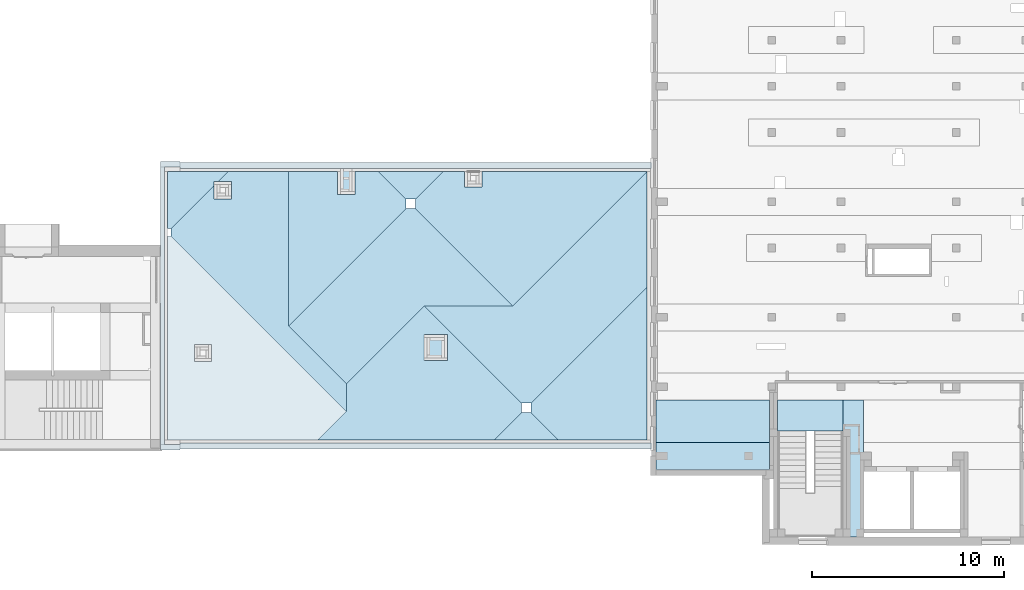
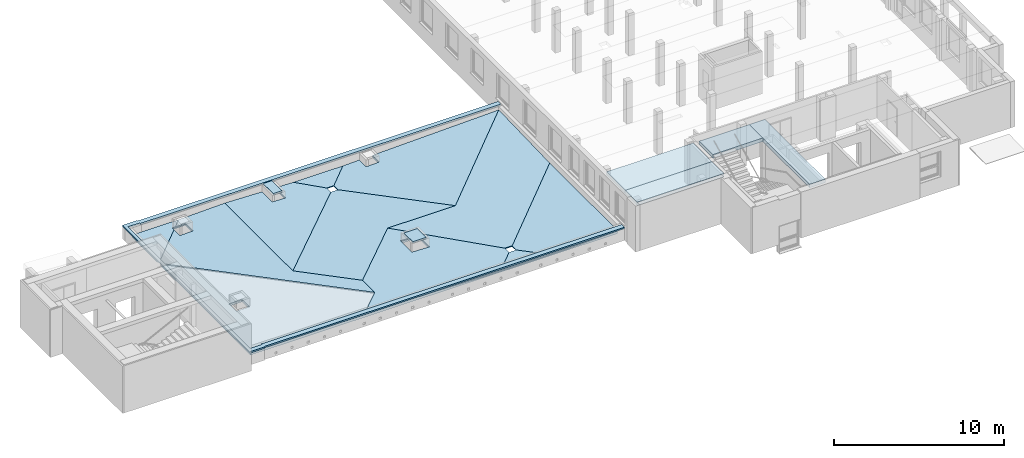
# One storey, part 2 of 27: 18 slabs, 1 element without a shape of its own.
"""IFC4 building model written with IfcOpenShell, lengths in metres."""

from ifc_helpers import new_model, entity, si_unit, converted_unit, derived_unit, frame, frame_2d, origin, origin_with_axes, place, context, subcontext, project, spatial, polyline, rectangle, outline, extrude, clip, bounded_halfspace, material, layer, layer_set, layer_usage, element, aggregate, save


model = new_model("IFC4")

# Units and contexts
model_context = context("Model", 3, precision=1e-05, world=origin())
body_context = subcontext(model_context, "Body", "Model", "MODEL_VIEW")
ifc_project = project(units=[si_unit("LENGTHUNIT", "METRE"), si_unit("AREAUNIT", "SQUARE_METRE"), si_unit("VOLUMEUNIT", "CUBIC_METRE"), si_unit("MASSUNIT", "GRAM", prefix="KILO"), converted_unit("PLANEANGLEUNIT", "DEGREE", entity("IfcPlaneAngleMeasure", 0.0174532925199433), si_unit("PLANEANGLEUNIT", "RADIAN"), dimensions=[0, 0, 0, 0, 0, 0, 0]), derived_unit("THERMALTRANSMITTANCEUNIT", [(si_unit("POWERUNIT", "WATT"), 1), (si_unit("THERMODYNAMICTEMPERATUREUNIT", "KELVIN"), -1), (si_unit("LENGTHUNIT", "METRE"), -2)]), derived_unit("VOLUMETRICFLOWRATEUNIT", [(si_unit("LENGTHUNIT", "METRE"), 3), (converted_unit("TIMEUNIT", "hour", entity("IfcTimeMeasure", 3600.0), si_unit("TIMEUNIT", "SECOND"), dimensions=[0, 0, 1, 0, 0, 0, 0]), -1), (si_unit("LENGTHUNIT", "METRE"), -1)])], contexts=[model_context])

# Site, building, storey
site_placement = place(None, origin())
site = spatial("IfcSite", under=ifc_project, at=site_placement, Name="3. ASŘ", CompositionType="ELEMENT")
building_placement = place(site_placement, origin())
building = spatial("IfcBuilding", under=site, at=building_placement, Name="Pavilon C", CompositionType="ELEMENT")
storey_placement = place(building_placement, frame((0.0, 0.0, 7.2)))
storey = spatial("IfcBuildingStorey", under=building, at=storey_placement, Name="Půdorys 3.NP", CompositionType="ELEMENT", Elevation=7.2)

# Slabs
ifc_material_1 = material(Name="VĚNEC")
slab_1_placement = place(storey_placement, frame((34.45, -4.19999999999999, 2.95)))
element("IfcSlab", 1, at=slab_1_placement, inside=storey, material=ifc_material_1, PredefinedType="FLOOR", context=body_context, shape_type="SweptSolid", body=[
    extrude(rectangle(XDim=7.09999999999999, YDim=1.07, at=frame_2d((-0.535, 3.55), x_axis=(0.0, 1.0))), frame((1.07, 0.0, 0.0), z_axis=(0.0, 0.0, 1.0), x_axis=(1.0, 0.0, 0.0)), (0.0, 0.0, 1.0), 0.25),
])
ifc_material_2 = material(Name="DZH")
slab_2_placement = place(storey_placement, frame((31.05, 1.3001, 2.95)))
element("IfcSlab", 2, at=slab_2_placement, inside=storey, material=ifc_material_2, PredefinedType="FLOOR", context=body_context, shape_type="SweptSolid", body=[
    extrude(rectangle(XDim=1.5999, YDim=3.39999999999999, at=frame_2d((-1.69999999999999, 0.799949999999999), x_axis=(0.0, 1.0))), frame((3.39999999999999, 0.0, 0.0), z_axis=(0.0, 0.0, 1.0), x_axis=(1.0, 0.0, 0.0)), (0.0, 0.0, 1.0), 0.25),
])
ifc_material_3 = material(Name="PZD")
slab_3_placement = place(storey_placement, frame((24.75, 0.699999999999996, 2.95)))
element("IfcSlab", 3, at=slab_3_placement, inside=storey, material=ifc_material_3, PredefinedType="FLOOR", context=body_context, shape_type="SweptSolid", body=[
    extrude(rectangle(XDim=2.2, YDim=5.9, at=frame_2d((2.95, -1.1), x_axis=(0.0, -1.0))), frame((0.0, 2.2, 0.0), z_axis=(0.0, 0.0, 1.0), x_axis=(1.0, 0.0, 0.0)), (0.0, 0.0, 1.0), 0.25),
])
ifc_material_4 = material(Name="RZT")
slab_4_placement = place(storey_placement, frame((24.75, -0.700000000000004, 2.95)))
element("IfcSlab", 4, at=slab_4_placement, inside=storey, material=ifc_material_4, PredefinedType="FLOOR", context=body_context, shape_type="SweptSolid", body=[
    extrude(rectangle(XDim=1.4, YDim=5.9, at=frame_2d((-2.95, 0.700000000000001), x_axis=(0.0, 1.0))), frame((5.9, 0.0, 0.0), z_axis=(0.0, 0.0, 1.0), x_axis=(1.0, 0.0, 0.0)), (0.0, 0.0, 1.0), 0.25),
])

# Roof, slabs
roof_placement = place(storey_placement, frame((0.0, 0.0, -7.2)))
roof = element("IfcRoof", 5, at=roof_placement, inside=storey, PredefinedType="NOTDEFINED")
ifc_material_5 = material(Name="ASFALTOVÁ HYDROIZOLACE")
ifc_layer_1 = layer(ifc_material_5, 0.01)
ifc_material_6 = material(Name="KAČÍREK")
ifc_layer_2 = layer(ifc_material_6, 0.06)
ifc_layer_set_1 = layer_set([ifc_layer_1, ifc_layer_2])
ifc_layer_usage_1 = layer_usage(ifc_layer_set_1, "AXIS3", "POSITIVE", 0.0)
slab_5_placement = place(roof_placement, frame((-0.649999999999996, 11.815, 7.38)))
slab_5 = element("IfcSlab", 6, at=slab_5_placement, material=ifc_layer_usage_1, PredefinedType="ROOF", context=body_context, shape_type="SweptSolid", body=[
    extrude(outline(polyline([(1.55071428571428, -1.10335331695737), (1.55071428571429, 1.8629806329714), (1.35071428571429, 1.86298063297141), (-0.874285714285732, -0.363020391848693), (-0.874285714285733, -0.578117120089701), (-1.08928571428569, -0.578117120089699), (-1.61428571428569, -1.10335331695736), (1.55071428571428, -1.10335331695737)])), frame((1.55071428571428, 1.86214285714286, 0.0558642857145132), z_axis=(1.33532470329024e-16, -0.0299865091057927, 0.999550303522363), x_axis=(-1.0, -4.45308488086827e-15, 0.0)), (0.0, -0.0299865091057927, 0.999550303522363), 0.0700314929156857),
])
ifc_material_7 = material(Name="ASFALTOVÁ HYDROIZOLACE")
ifc_layer_3 = layer(ifc_material_7, 0.01)
ifc_material_8 = material(Name="KAČÍREK")
ifc_layer_4 = layer(ifc_material_8, 0.06)
ifc_layer_set_2 = layer_set([ifc_layer_3, ifc_layer_4])
ifc_layer_usage_2 = layer_usage(ifc_layer_set_2, "AXIS3", "POSITIVE", 0.0)
slab_6_placement = place(roof_placement, frame((-0.44999999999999, 2.31500000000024, 7.38)))
slab_6 = element("IfcSlab", 7, at=slab_6_placement, material=ifc_layer_usage_2, PredefinedType="ROOF", context=body_context, shape_type="SweptSolid", body=[
    extrude(outline(polyline([(2.80124999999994, 1.65115918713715), (0.576249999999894, 3.87716021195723), (0.176250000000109, 3.87716021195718), (-8.92374999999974, -5.22693386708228), (-7.48875000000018, -5.22693386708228), (-4.48875000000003, -2.22558417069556), (3.54125000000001, -2.22558417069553), (3.54125, 0.91082626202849), (3.01625, 1.43606245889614), (3.01625, 0.750754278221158), (2.11625, 0.750754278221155), (2.11624999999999, 1.65115918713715), (2.80124999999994, 1.65115918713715)])), frame((3.87541666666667, 8.92374999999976, 0.116262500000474), z_axis=(-0.0299865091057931, 8.94097406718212e-17, 0.999550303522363), x_axis=(2.98166553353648e-15, 1.0, 0.0)), (0.0, -0.0299865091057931, 0.999550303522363), 0.0700314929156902),
])
ifc_material_9 = material(Name="ASFALTOVÁ HYDROIZOLACE")
ifc_layer_5 = layer(ifc_material_9, 0.01)
ifc_material_10 = material(Name="KAČÍREK")
ifc_layer_6 = layer(ifc_material_10, 0.06)
ifc_layer_set_3 = layer_set([ifc_layer_5, ifc_layer_6])
ifc_layer_usage_3 = layer_usage(ifc_layer_set_3, "AXIS3", "POSITIVE", 0.0)
slab_7_placement = place(roof_placement, frame((5.65000000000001, 6.75000000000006, 7.38)))
slab_7 = element("IfcSlab", 8, at=slab_7_placement, material=ifc_layer_usage_3, PredefinedType="ROOF", context=body_context, shape_type="SweptSolid", body=[
    extrude(outline(polyline([(6.49777777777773, -3.20699773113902), (0.397777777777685, 2.89574665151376), (-0.102222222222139, 2.89574665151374), (-1.53222222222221, 1.46510329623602), (-1.53222222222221, 0.239552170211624), (-0.332222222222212, 0.239552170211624), (-0.332222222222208, -0.660852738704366), (-1.53222222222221, -0.660852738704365), (-1.53222222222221, -3.20699773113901), (6.49777777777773, -3.20699773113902)])), frame((3.20555555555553, 6.49777777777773, 0.0868333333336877), z_axis=(0.0299865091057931, 1.21928304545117e-17, 0.999550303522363), x_axis=(4.06610533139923e-16, -1.0, 0.0)), (0.0, -0.0299865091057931, 0.999550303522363), 0.0700314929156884),
])
ifc_material_11 = material(Name="ASFALTOVÁ HYDROIZOLACE")
ifc_layer_7 = layer(ifc_material_11, 0.01)
ifc_material_12 = material(Name="KAČÍREK")
ifc_layer_8 = layer(ifc_material_12, 0.06)
ifc_layer_set_4 = layer_set([ifc_layer_7, ifc_layer_8])
ifc_layer_usage_4 = layer_usage(ifc_layer_set_4, "AXIS3", "POSITIVE", 0.0)
slab_8_placement = place(roof_placement, frame((10.3199999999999, 13.35, 7.38)))
slab_8 = element("IfcSlab", 9, at=slab_8_placement, material=ifc_layer_usage_4, PredefinedType="ROOF", context=body_context, shape_type="SweptSolid", body=[
    extrude(outline(polyline([(-1.68000000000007, -0.715321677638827), (1.68000000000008, -0.715321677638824), (0.250000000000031, 0.71532167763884), (-0.250000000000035, 0.715321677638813), (-1.68000000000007, -0.715321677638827)])), frame((1.68000000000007, 0.715000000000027, 0.0214500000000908), z_axis=(-8.02231325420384e-17, -0.0299865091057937, 0.999550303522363), x_axis=(-1.0, 2.67530749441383e-15, 0.0)), (0.0, -0.0299865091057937, 0.999550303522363), 0.0700314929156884),
])
ifc_material_13 = material(Name="ASFALTOVÁ HYDROIZOLACE")
ifc_layer_9 = layer(ifc_material_13, 0.01)
ifc_material_14 = material(Name="KAČÍREK")
ifc_layer_10 = layer(ifc_material_14, 0.06)
ifc_layer_set_5 = layer_set([ifc_layer_9, ifc_layer_10])
ifc_layer_usage_5 = layer_usage(ifc_layer_set_5, "AXIS3", "POSITIVE", 0.0)
slab_9_placement = place(roof_placement, frame((12.25, 7.80000000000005, 7.38)))
slab_9 = element("IfcSlab", 10, at=slab_9_placement, material=ifc_layer_usage_5, PredefinedType="ROOF", context=body_context, shape_type="SweptSolid", body=[
    extrude(outline(polyline([(1.32666666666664, 1.96088180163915), (-0.103333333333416, 3.39152515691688), (-0.603333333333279, 3.39152515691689), (-5.65333333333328, -1.66074683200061), (1.32666666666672, -8.64388712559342), (1.32666666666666, -0.0600269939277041), (0.526666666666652, -0.0600269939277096), (0.526666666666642, 0.840377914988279), (1.32666666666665, 0.840377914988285), (1.32666666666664, 1.96088180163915)])), frame((3.39000000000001, 5.65333333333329, 0.101700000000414), z_axis=(-0.0299865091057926, 2.04194963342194e-16, 0.999550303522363), x_axis=(6.80956101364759e-15, 1.0, 0.0)), (0.0, -0.0299865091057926, 0.999550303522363), 0.0700314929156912),
])
ifc_material_15 = material(Name="ASFALTOVÁ HYDROIZOLACE")
ifc_layer_11 = layer(ifc_material_15, 0.01)
ifc_material_16 = material(Name="KAČÍREK")
ifc_layer_12 = layer(ifc_material_16, 0.06)
ifc_layer_set_6 = layer_set([ifc_layer_11, ifc_layer_12])
ifc_layer_usage_6 = layer_usage(ifc_layer_set_6, "AXIS3", "POSITIVE", 0.0)
slab_10_placement = place(roof_placement, frame((5.65000000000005, 3.74999999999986, 7.38)))
slab_10 = element("IfcSlab", 11, at=slab_10_placement, material=ifc_layer_usage_6, PredefinedType="ROOF", context=body_context, shape_type="SweptSolid", body=[
    extrude(outline(polyline([(-5.73333333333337, -1.88418064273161), (-2.73333333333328, -4.88553033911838), (1.31666666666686, -0.833708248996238), (5.9166666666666, -0.833708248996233), (0.866666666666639, 4.21856373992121), (0.366666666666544, 4.21856373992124), (-5.73333333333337, -1.88418064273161)])), frame((5.73333333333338, 4.88333333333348, 0.126500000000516), z_axis=(1.27603859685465e-16, 0.0299865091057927, 0.999550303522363), x_axis=(1.0, -4.25537561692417e-15, 0.0)), (0.0, -0.0299865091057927, 0.999550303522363), 0.0700314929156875),
])
ifc_material_17 = material(Name="ASFALTOVÁ HYDROIZOLACE")
ifc_layer_13 = layer(ifc_material_17, 0.01)
ifc_material_18 = material(Name="KAČÍREK")
ifc_layer_14 = layer(ifc_material_18, 0.06)
ifc_layer_set_7 = layer_set([ifc_layer_13, ifc_layer_14])
ifc_layer_usage_7 = layer_usage(ifc_layer_set_7, "AXIS3", "POSITIVE", 0.0)
slab_11_placement = place(roof_placement, frame((12.7000000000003, 2.75000000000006, 7.38)))
slab_11 = element("IfcSlab", 12, at=slab_11_placement, material=ifc_layer_usage_7, PredefinedType="ROOF", context=body_context, shape_type="SweptSolid", body=[
    extrude(outline(polyline([(-5.18666666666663, -1.33726803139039), (-5.1866666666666, -7.33996742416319), (1.79333333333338, -0.356827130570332), (6.39333333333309, -0.356827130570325), (1.34333333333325, 4.69544485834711), (0.843333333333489, 4.69544485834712), (-5.18666666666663, -1.33726803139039)])), frame((6.39333333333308, 4.69333333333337, 0.140800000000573), z_axis=(-1.51993280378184e-16, -0.0299865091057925, 0.999550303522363), x_axis=(-1.0, 5.06872206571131e-15, 0.0)), (0.0, -0.0299865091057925, 0.999550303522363), 0.0700314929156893),
])
ifc_material_19 = material(Name="ASFALTOVÁ HYDROIZOLACE")
ifc_layer_15 = layer(ifc_material_19, 0.01)
ifc_material_20 = material(Name="KAČÍREK")
ifc_layer_16 = layer(ifc_material_20, 0.06)
ifc_layer_set_8 = layer_set([ifc_layer_15, ifc_layer_16])
ifc_layer_usage_8 = layer_usage(ifc_layer_set_8, "AXIS3", "POSITIVE", 0.0)
slab_12_placement = place(roof_placement, frame((18.2499999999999, 0.820000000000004, 7.38)))
slab_12 = element("IfcSlab", 13, at=slab_12_placement, material=ifc_layer_usage_8, PredefinedType="ROOF", context=body_context, shape_type="SweptSolid", body=[
    extrude(outline(polyline([(-2.26400000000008, 1.26857047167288), (-2.26400000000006, -3.33349906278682), (5.69600000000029, -3.33349906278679), (-0.334000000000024, 2.69921382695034), (-0.834000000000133, 2.69921382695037), (-2.26400000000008, 1.26857047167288)])), frame((2.698, 2.26400000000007, 0.0809400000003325), z_axis=(-0.0299865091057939, 1.25025921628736e-16, 0.999550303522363), x_axis=(4.1694056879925e-15, 1.0, 0.0)), (0.0, -0.0299865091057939, 0.999550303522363), 0.0700314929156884),
])
ifc_material_21 = material(Name="ASFALTOVÁ HYDROIZOLACE")
ifc_layer_17 = layer(ifc_material_21, 0.01)
ifc_material_22 = material(Name="KAČÍREK")
ifc_layer_18 = layer(ifc_material_22, 0.06)
ifc_layer_set_9 = layer_set([ifc_layer_17, ifc_layer_18])
ifc_layer_usage_9 = layer_usage(ifc_layer_set_9, "AXIS3", "POSITIVE", 0.0)
slab_13_placement = place(roof_placement, frame((16.3200000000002, 0.820000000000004, 7.38)))
slab_13 = element("IfcSlab", 14, at=slab_13_placement, material=ifc_layer_usage_9, PredefinedType="ROOF", context=body_context, shape_type="SweptSolid", body=[
    extrude(outline(polyline([(-1.67999999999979, -0.715321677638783), (1.67999999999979, -0.715321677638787), (0.249999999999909, 0.715321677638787), (-0.249999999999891, 0.715321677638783), (-1.67999999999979, -0.715321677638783)])), frame((1.67999999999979, 0.714999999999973, 0.021450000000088), z_axis=(-3.34671359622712e-17, 0.0299865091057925, 0.999550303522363), x_axis=(1.0, 1.1160730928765e-15, 0.0)), (0.0, -0.0299865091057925, 0.999550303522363), 0.0700314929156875),
])
ifc_material_23 = material(Name="ASFALTOVÁ HYDROIZOLACE")
ifc_layer_19 = layer(ifc_material_23, 0.01)
ifc_material_24 = material(Name="KAČÍREK")
ifc_layer_20 = layer(ifc_material_24, 0.06)
ifc_layer_set_10 = layer_set([ifc_layer_19, ifc_layer_20])
ifc_layer_usage_10 = layer_usage(ifc_layer_set_10, "AXIS3", "POSITIVE", 0.0)
slab_14_placement = place(roof_placement, frame((7.15499999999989, 0.820000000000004, 7.38)))
slab_14 = element("IfcSlab", 15, at=slab_14_placement, material=ifc_layer_usage_10, PredefinedType="ROOF", context=body_context, shape_type="SweptSolid", body=[
    extrude(outline(polyline([(3.08954545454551, -5.77297773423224), (3.08954545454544, 3.39614558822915), (1.65954545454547, 4.82678894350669), (1.15954545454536, 4.82678894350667), (-3.89045454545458, -0.22548304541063), (0.159545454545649, -4.27730513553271), (1.59454545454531, -4.2773051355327), (3.08954545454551, -5.77297773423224)]), holes=[polyline([(-2.39045454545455, 0.975056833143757), (-1.04045454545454, 0.975056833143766), (-1.04045454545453, -0.223383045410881), (-2.39045454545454, -0.223383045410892), (-2.39045454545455, 0.975056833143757)])]), frame((5.7703816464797, 3.08954545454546, 0.144738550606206), z_axis=(0.0299865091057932, -2.25762681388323e-16, 0.999550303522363), x_axis=(-7.52880839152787e-15, -1.0, 0.0)), (0.0, -0.0299865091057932, 0.999550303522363), 0.0700314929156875),
])
aggregate(roof, [slab_5, slab_6, slab_7, slab_8, slab_9, slab_10, slab_11, slab_12, slab_13, slab_14])

# Slabs
ifc_material_25 = material(Name="SPÁDOVÉ KLÍNY PIR 3%")
slab_15_placement = place(storey_placement, frame((-0.649999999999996, 0.820000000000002, 0.179999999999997)))
element("IfcSlab", 16, at=slab_15_placement, inside=storey, material=ifc_material_25, PredefinedType="FLOOR", context=body_context, shape_type="Clipping", body=[
    clip(clip(extrude(outline(polyline([(3.35999999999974, 4.54747350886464e-16), (1.92999999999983, 1.42999999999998), (1.42999999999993, 1.42999999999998), (0.0, 0.0), (3.35999999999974, 4.54747350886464e-16)])), frame((16.9700000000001, 2.50111042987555e-15, 0.0), z_axis=(0.0, 0.0, 1.0), x_axis=(1.0, 0.0, 0.0)), (0.0, 0.0, 1.0), 0.360900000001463), bounded_halfspace(frame((18.65, 0.714999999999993, 2.72848410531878e-15), z_axis=(3.41534887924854e-17, -3.33260826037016e-18, 1.0), x_axis=(1.0, 0.0, 0.0)), True, origin_with_axes(), polyline([(20.3299999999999, 2.95585778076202e-15), (18.8999999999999, 1.42999999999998), (18.4, 1.42999999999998), (16.9700000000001, 2.50111042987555e-15), (20.3299999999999, 2.95585778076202e-15)]))), bounded_halfspace(frame((18.65, 0.714999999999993, 0.0214500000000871), z_axis=(0.0, -0.0299865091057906, -0.999550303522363), x_axis=(-1.0, 0.0, 0.0)), True, origin_with_axes(), polyline([(20.3299999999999, 2.95585778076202e-15), (18.8999999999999, 1.42999999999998), (18.4, 1.42999999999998), (16.9700000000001, 2.50111042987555e-15), (20.3299999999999, 2.95585778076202e-15)]))),
    clip(clip(extrude(outline(polyline([(6.03000000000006, 7.96000000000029), (0.0, 1.93000000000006), (0.0, 1.42999999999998), (1.42999999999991, 0.0), (6.03000000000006, 6.82121026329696e-16), (6.03000000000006, 7.96000000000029)])), frame((18.8999999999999, 2.95585778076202e-15, 0.0), z_axis=(0.0, 0.0, 1.0), x_axis=(1.0, 0.0, 0.0)), (0.0, 0.0, 1.0), 0.360900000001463), bounded_halfspace(frame((21.5979999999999, 2.26400000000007, 2.72848410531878e-15), z_axis=(3.41534887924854e-17, -3.33260826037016e-18, 1.0), x_axis=(1.0, 0.0, 0.0)), True, origin_with_axes(), polyline([(24.93, 7.9600000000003), (18.8999999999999, 1.93000000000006), (18.8999999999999, 1.42999999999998), (20.3299999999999, 2.95585778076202e-15), (24.93, 3.63797880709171e-15), (24.93, 7.9600000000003)]))), bounded_halfspace(frame((21.5979999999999, 2.26400000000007, 0.0809400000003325), z_axis=(0.0299865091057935, 2.83814032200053e-16, -0.999550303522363), x_axis=(9.46472399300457e-15, -1.0, 0.0)), True, origin_with_axes(), polyline([(24.93, 7.9600000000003), (18.8999999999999, 1.93000000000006), (18.8999999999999, 1.42999999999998), (20.3299999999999, 2.95585778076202e-15), (24.93, 3.63797880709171e-15), (24.93, 7.9600000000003)]))),
    clip(clip(extrude(outline(polyline([(0.0, 5.04999999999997), (5.04999999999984, 0.0), (5.54999999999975, 9.09494701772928e-16), (11.5799999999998, 6.03000000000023), (11.5799999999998, 12.0299999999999), (4.59999999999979, 5.04999999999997), (0.0, 5.04999999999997)])), frame((13.3500000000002, 1.93000000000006, 0.0), z_axis=(0.0, 0.0, 1.0), x_axis=(1.0, 0.0, 0.0)), (0.0, 0.0, 1.0), 0.360900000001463), bounded_halfspace(frame((19.7433333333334, 6.62333333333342, 2.72848410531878e-15), z_axis=(3.41534887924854e-17, -3.33260826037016e-18, 1.0), x_axis=(1.0, 0.0, 0.0)), True, origin_with_axes(), polyline([(13.3500000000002, 6.98000000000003), (18.4, 1.93000000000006), (18.8999999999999, 1.93000000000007), (24.93, 7.9600000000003), (24.93, 13.96), (17.95, 6.98000000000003), (13.3500000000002, 6.98000000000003)]))), bounded_halfspace(frame((19.7433333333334, 6.62333333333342, 0.140800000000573), z_axis=(1.69605803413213e-16, 0.0299865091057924, -0.999550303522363), x_axis=(1.0, -5.65607029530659e-15, 0.0)), True, origin_with_axes(), polyline([(13.3500000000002, 6.98000000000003), (18.4, 1.93000000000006), (18.8999999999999, 1.93000000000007), (24.93, 7.9600000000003), (24.93, 13.96), (17.95, 6.98000000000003), (13.3500000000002, 6.98000000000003)]))),
    clip(clip(extrude(outline(polyline([(1.43000000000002, 6.97999999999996), (0.0, 5.54999999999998), (0.0, 5.04999999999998), (5.04999999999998, 0.0), (12.03, 6.97999999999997), (3.45, 6.97999999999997), (3.45, 6.17999999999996), (2.55, 6.17999999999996), (2.55, 6.97999999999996), (1.43000000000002, 6.97999999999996)])), frame((12.9, 6.98000000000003, 0.0), z_axis=(0.0, 0.0, 1.0), x_axis=(1.0, 0.0, 0.0)), (0.0, 0.0, 1.0), 0.360900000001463), bounded_halfspace(frame((16.29, 12.6333333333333, 2.72848410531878e-15), z_axis=(3.41534887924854e-17, -3.33260826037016e-18, 1.0), x_axis=(1.0, 0.0, 0.0)), True, origin_with_axes(), polyline([(14.33, 13.96), (12.9, 12.53), (12.9, 12.03), (17.95, 6.98000000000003), (24.93, 13.96), (16.35, 13.96), (16.35, 13.16), (15.45, 13.16), (15.45, 13.96), (14.33, 13.96)]))), bounded_halfspace(frame((16.29, 12.6333333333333, 0.101700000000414), z_axis=(0.0299865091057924, 1.11246996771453e-16, -0.999550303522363), x_axis=(3.70990155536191e-15, -1.0, 0.0)), True, origin_with_axes(), polyline([(14.33, 13.96), (12.9, 12.53), (12.9, 12.03), (17.95, 6.98000000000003), (24.93, 13.96), (16.35, 13.96), (16.35, 13.16), (15.45, 13.16), (15.45, 13.96), (14.33, 13.96)]))),
    clip(clip(extrude(outline(polyline([(6.60000000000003, 9.10000000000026), (6.10000000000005, 9.10000000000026), (0.0, 3.00000000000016), (3.00000000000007, 0.0), (7.05000000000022, 4.05000000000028), (11.65, 4.05000000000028), (6.60000000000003, 9.10000000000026)])), frame((6.29999999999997, 2.92999999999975, 0.0), z_axis=(0.0, 0.0, 1.0), x_axis=(1.0, 0.0, 0.0)), (0.0, 0.0, 1.0), 0.360900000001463), bounded_halfspace(frame((12.0333333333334, 7.81333333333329, 2.72848410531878e-15), z_axis=(3.41534887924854e-17, -3.33260826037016e-18, 1.0), x_axis=(1.0, 0.0, 0.0)), True, origin_with_axes(), polyline([(12.9, 12.03), (12.4, 12.03), (6.29999999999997, 5.92999999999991), (9.30000000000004, 2.92999999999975), (13.3500000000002, 6.98000000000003), (17.95, 6.98000000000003), (12.9, 12.03)]))), bounded_halfspace(frame((12.0333333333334, 7.81333333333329, 0.126500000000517), z_axis=(-1.52652542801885e-16, -0.0299865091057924, -0.999550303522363), x_axis=(-1.0, 5.09070736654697e-15, 0.0)), True, origin_with_axes(), polyline([(12.9, 12.03), (12.4, 12.03), (6.29999999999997, 5.92999999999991), (9.30000000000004, 2.92999999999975), (13.3500000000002, 6.98000000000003), (17.95, 6.98000000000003), (12.9, 12.03)]))),
    clip(clip(extrude(outline(polyline([(0.0, 1.42999999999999), (1.43000000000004, 0.0), (1.93000000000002, 0.0), (3.36000000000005, 1.42999999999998), (0.0, 1.42999999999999)])), frame((10.97, 12.53, 0.0), z_axis=(0.0, 0.0, 1.0), x_axis=(1.0, 0.0, 0.0)), (0.0, 0.0, 1.0), 0.360900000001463), bounded_halfspace(frame((12.65, 13.245, 2.72848410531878e-15), z_axis=(3.41534887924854e-17, -3.33260826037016e-18, 1.0), x_axis=(1.0, 0.0, 0.0)), True, origin_with_axes(), polyline([(10.97, 13.96), (12.4, 12.53), (12.9, 12.53), (14.33, 13.96), (10.97, 13.96)]))), bounded_halfspace(frame((12.65, 13.245, 0.0214500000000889), z_axis=(2.63644406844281e-16, 0.0299865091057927, -0.999550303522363), x_axis=(1.0, -8.79210067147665e-15, 0.0)), True, origin_with_axes(), polyline([(10.97, 13.96), (12.4, 12.53), (12.9, 12.53), (14.33, 13.96), (10.97, 13.96)]))),
    clip(clip(extrude(outline(polyline([(9.30000000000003, 1.49500000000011), (0.199999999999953, 10.595), (0.0, 10.595), (0.0, 0.0), (7.80499999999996, 1.13686837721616e-15), (9.30000000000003, 1.49500000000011)]), holes=[polyline([(2.3, 4.08), (1.4, 4.08), (1.4, 4.98), (2.3, 4.98), (2.3, 4.08)])]), origin_with_axes(), (0.0, 0.0, 1.0), 0.360900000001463), bounded_halfspace(frame((2.74499999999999, 4.53388888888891, 2.72848410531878e-15), z_axis=(3.41534887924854e-17, -3.33260826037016e-18, 1.0), x_axis=(1.0, 0.0, 0.0)), True, origin_with_axes(), polyline([(9.30000000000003, 1.49500000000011), (0.199999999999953, 10.595), (0.0, 10.595), (0.0, 0.0), (7.80499999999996, 1.13686837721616e-15), (9.30000000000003, 1.49500000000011)]))), bounded_halfspace(frame((2.74499999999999, 4.53388888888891, 0.181833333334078), z_axis=(-1.56787523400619e-16, -0.0299865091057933, -0.999550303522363), x_axis=(-1.0, 5.2286020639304e-15, 0.0)), True, origin_with_axes(), polyline([(9.30000000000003, 1.49500000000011), (0.199999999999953, 10.595), (0.0, 10.595), (0.0, 0.0), (7.80499999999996, 1.13686837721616e-15), (9.30000000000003, 1.49500000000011)]))),
    clip(clip(extrude(outline(polyline([(2.22500000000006, 11.7249999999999), (9.45874489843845e-14, 9.49999999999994), (0.0, 9.09999999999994), (9.10000000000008, 0.0), (9.10000000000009, 1.43499999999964), (6.10000000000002, 4.4349999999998), (6.10000000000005, 12.4649999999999), (2.96500000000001, 12.4649999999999), (2.44000000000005, 11.9399999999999), (3.12500000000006, 11.9399999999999), (3.12500000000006, 11.0399999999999), (2.22500000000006, 11.0399999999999), (2.22500000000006, 11.7249999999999)])), frame((0.199999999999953, 1.49500000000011, 0.0), z_axis=(0.0, 0.0, 1.0), x_axis=(1.0, 0.0, 0.0)), (0.0, 0.0, 1.0), 0.360900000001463), bounded_halfspace(frame((4.07541666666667, 10.41875, 2.72848410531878e-15), z_axis=(3.41534887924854e-17, -3.33260826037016e-18, 1.0), x_axis=(1.0, 0.0, 0.0)), True, origin_with_axes(), polyline([(2.42500000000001, 13.22), (0.200000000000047, 10.995), (0.199999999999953, 10.595), (9.30000000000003, 1.49500000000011), (9.30000000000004, 2.92999999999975), (6.29999999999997, 5.92999999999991), (6.3, 13.96), (3.16499999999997, 13.96), (2.64, 13.435), (3.32500000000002, 13.435), (3.32500000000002, 12.535), (2.42500000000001, 12.535), (2.42500000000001, 13.22)]))), bounded_halfspace(frame((4.07541666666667, 10.41875, 0.116262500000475), z_axis=(0.0299865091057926, -5.08437325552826e-16, -0.999550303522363), x_axis=(-1.69555356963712e-14, -1.0, 0.0)), True, origin_with_axes(), polyline([(2.42500000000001, 13.22), (0.200000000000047, 10.995), (0.199999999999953, 10.595), (9.30000000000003, 1.49500000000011), (9.30000000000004, 2.92999999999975), (6.29999999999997, 5.92999999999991), (6.3, 13.96), (3.16499999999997, 13.96), (2.64, 13.435), (3.32500000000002, 13.435), (3.32500000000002, 12.535), (2.42500000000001, 12.535), (2.42500000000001, 13.22)]))),
    clip(clip(extrude(outline(polyline([(3.16499999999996, 2.965), (0.0, 2.965), (0.0, 0.0), (0.200000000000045, 4.91127138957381e-14), (2.42500000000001, 2.22499999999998), (2.42500000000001, 2.44), (2.64, 2.44), (3.16499999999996, 2.965)])), frame((1.81898940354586e-15, 10.995, 0.0), z_axis=(0.0, 0.0, 1.0), x_axis=(1.0, 0.0, 0.0)), (0.0, 0.0, 1.0), 0.360900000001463), bounded_halfspace(frame((1.55071428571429, 12.8571428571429, 2.72848410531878e-15), z_axis=(3.41534887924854e-17, -3.33260826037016e-18, 1.0), x_axis=(1.0, 0.0, 0.0)), True, origin_with_axes(), polyline([(3.16499999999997, 13.96), (1.81898940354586e-15, 13.96), (1.81898940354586e-15, 10.995), (0.200000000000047, 10.995), (2.42500000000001, 13.22), (2.42500000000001, 13.435), (2.64, 13.435), (3.16499999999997, 13.96)]))), bounded_halfspace(frame((1.55071428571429, 12.8571428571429, 0.0558642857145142), z_axis=(1.31340652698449e-16, 0.0299865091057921, -0.999550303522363), x_axis=(1.0, -4.37999142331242e-15, 0.0)), True, origin_with_axes(), polyline([(3.16499999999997, 13.96), (1.81898940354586e-15, 13.96), (1.81898940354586e-15, 10.995), (0.200000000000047, 10.995), (2.42500000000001, 13.22), (2.42500000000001, 13.435), (2.64, 13.435), (3.16499999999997, 13.96)]))),
    clip(clip(extrude(outline(polyline([(9.16500000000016, 1.36424205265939e-15), (10.5950000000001, 1.42999999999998), (10.5950000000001, 1.93000000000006), (5.54500000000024, 6.98000000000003), (1.49500000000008, 2.92999999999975), (1.49500000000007, 1.49500000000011), (0.0, 0.0), (9.16500000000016, 1.36424205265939e-15)]), holes=[polyline([(6.74500000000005, 5.48), (6.74500000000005, 4.13), (5.54500000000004, 4.13), (5.54500000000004, 5.48), (6.74500000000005, 5.48)])]), frame((7.80499999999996, 1.13686837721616e-15, 0.0), z_axis=(0.0, 0.0, 1.0), x_axis=(1.0, 0.0, 0.0)), (0.0, 0.0, 1.0), 0.360900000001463), bounded_halfspace(frame((13.575, 3.08954545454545, 2.72848410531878e-15), z_axis=(3.41534887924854e-17, -3.33260826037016e-18, 1.0), x_axis=(1.0, 0.0, 0.0)), True, origin_with_axes(), polyline([(16.9700000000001, 2.50111042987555e-15), (18.4, 1.42999999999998), (18.4, 1.93000000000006), (13.3500000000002, 6.98000000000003), (9.30000000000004, 2.92999999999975), (9.30000000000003, 1.49500000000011), (7.80499999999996, 1.13686837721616e-15), (16.9700000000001, 2.50111042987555e-15)]))), bounded_halfspace(frame((13.575, 3.08954545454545, 0.144750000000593), z_axis=(-0.0299865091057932, 2.48376145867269e-16, -0.999550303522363), x_axis=(8.28292966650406e-15, 1.0, 0.0)), True, origin_with_axes(), polyline([(16.9700000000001, 2.50111042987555e-15), (18.4, 1.42999999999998), (18.4, 1.93000000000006), (13.3500000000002, 6.98000000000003), (9.30000000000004, 2.92999999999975), (9.30000000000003, 1.49500000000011), (7.80499999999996, 1.13686837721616e-15), (16.9700000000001, 2.50111042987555e-15)]))),
    clip(clip(extrude(outline(polyline([(0.0, 0.0), (6.10000000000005, 6.1000000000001), (6.10000000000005, 6.6000000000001), (4.67000000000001, 8.03000000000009), (3.44500000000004, 8.03000000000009), (3.44500000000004, 6.83000000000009), (2.54500000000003, 6.83000000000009), (2.54500000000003, 8.03000000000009), (2.81943357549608e-14, 8.03000000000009), (0.0, 0.0)])), frame((6.29999999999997, 5.92999999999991, 0.0), z_axis=(0.0, 0.0, 1.0), x_axis=(1.0, 0.0, 0.0)), (0.0, 0.0, 1.0), 0.360900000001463), bounded_halfspace(frame((9.50555555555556, 12.4277777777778, 2.72848410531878e-15), z_axis=(3.41534887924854e-17, -3.33260826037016e-18, 1.0), x_axis=(1.0, 0.0, 0.0)), True, origin_with_axes(), polyline([(6.29999999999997, 5.92999999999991), (12.4, 12.03), (12.4, 12.53), (10.97, 13.96), (9.74500000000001, 13.96), (9.74500000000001, 12.76), (8.84500000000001, 12.76), (8.84500000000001, 13.96), (6.3, 13.96), (6.29999999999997, 5.92999999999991)]))), bounded_halfspace(frame((9.50555555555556, 12.4277777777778, 0.0868333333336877), z_axis=(-0.0299865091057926, -3.55629956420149e-16, -0.999550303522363), x_axis=(-1.18596651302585e-14, 1.0, 0.0)), True, origin_with_axes(), polyline([(6.29999999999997, 5.92999999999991), (12.4, 12.03), (12.4, 12.53), (10.97, 13.96), (9.74500000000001, 13.96), (9.74500000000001, 12.76), (8.84500000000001, 12.76), (8.84500000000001, 13.96), (6.3, 13.96), (6.29999999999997, 5.92999999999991)]))),
])
ifc_material_26 = material(Name="MINERÁLNÍ VATA")
slab_16_placement = place(storey_placement, frame((-0.999999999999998, 0.300000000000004, 0.75)))
element("IfcSlab", 17, at=slab_16_placement, inside=storey, material=ifc_material_26, PredefinedType="FLOOR", context=body_context, shape_type="SweptSolid", body=[
    extrude(outline(polyline([(0.200000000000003, 14.7), (1.00000000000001, 14.7), (1.00000000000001, 14.63), (25.5, 14.63), (25.5, 14.95), (1.0, 14.95), (1.0, 15.0), (0.0, 15.0), (0.0, 0.0), (1.0, 9.09494701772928e-16), (1.0, 0.0500000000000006), (25.5, 0.0500000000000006), (25.5, 0.370000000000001), (1.0, 0.370000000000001), (1.0, 0.300000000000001), (0.200000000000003, 0.300000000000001), (0.200000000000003, 14.7)])), origin_with_axes(), (0.0, 0.0, 1.0), 0.1),
])
ifc_material_27 = material(Name="MINERÁLNÍ VATA")
slab_17_placement = place(storey_placement, frame((8.34500000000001, 13.73, 0.7)))
element("IfcSlab", 18, at=slab_17_placement, inside=storey, material=ifc_material_27, PredefinedType="FLOOR", context=body_context, shape_type="SweptSolid", body=[
    extrude(rectangle(XDim=1.2, YDim=0.600000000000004, at=frame_2d((0.300000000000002, -0.6), x_axis=(0.0, -1.0))), frame((0.0, 1.2, 0.0), z_axis=(0.0, 0.0, 1.0), x_axis=(1.0, 0.0, 0.0)), (0.0, 0.0, 1.0), 0.1),
])
ifc_material_28 = material(Name="MINERÁLNÍ VATA")
slab_18_placement = place(storey_placement, frame((12.85, 5.1, 0.9)))
element("IfcSlab", 19, at=slab_18_placement, inside=storey, material=ifc_material_28, PredefinedType="FLOOR", context=body_context, shape_type="SweptSolid", body=[
    extrude(rectangle(XDim=0.900000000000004, YDim=1.05, at=frame_2d((0.450000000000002, 0.525000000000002), x_axis=(1.0, 0.0))), origin_with_axes(), (0.0, 0.0, 1.0), 0.1),
])

save(model, "model.ifc")
